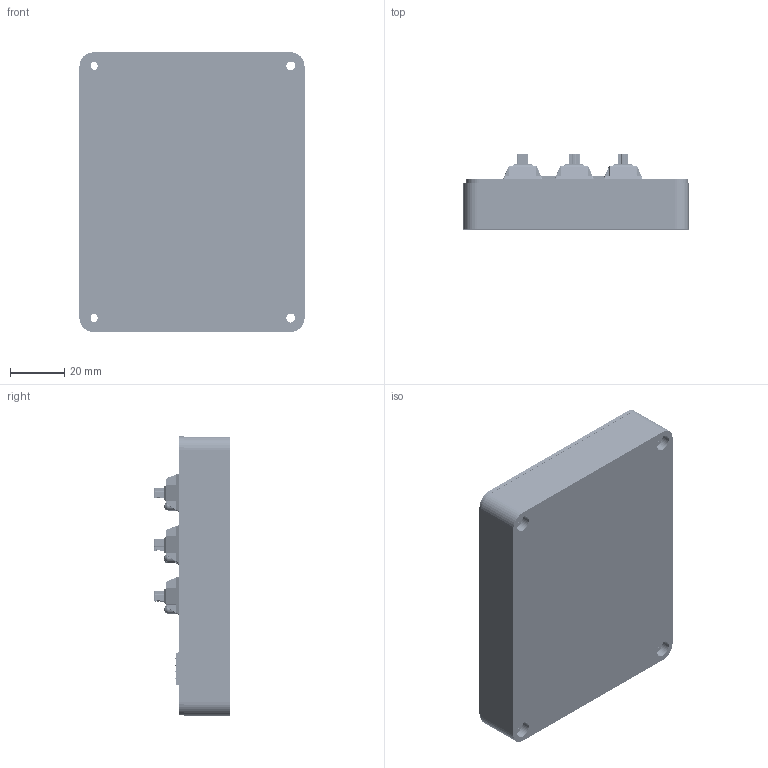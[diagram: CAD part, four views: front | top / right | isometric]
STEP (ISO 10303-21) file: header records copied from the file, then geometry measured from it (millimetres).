
FILE_DESCRIPTION(/* description */ (''),/* implementation_level */ '2;1');
FILE_NAME(/* name */ 'Gethin - full hackpad assembled_.step',/* time_stamp */ '2025-12-07T14:21:53Z',/* author */ (''),/* organization */ (''),/* preprocessor_version */ 'ST-DEVELOPER v20.1',/* originating_system */ 'Autodesk Translation Framework v14.21.0.0',/* authorisation */ '');
FILE_SCHEMA (('AUTOMOTIVE_DESIGN { 1 0 10303 214 3 1 1 }'));
Products named in the file (23): full hackpad assembled; Gethin hackpad cover; MX °´¼ü_¨¹_¡§1; MX Öá °´¼ü¡ä_¨¹
___¡§1; MX Öá ÖáÌå¨¢¨¬
_¡§¡é¡§__; MXÖá ÎÞÃ±LEDLEDLED; MXÖá ÖáÌå µ×²¿ ¦Ì¡
Á2__Ä¬ÈÏ_¨¢2____¨¨_; Õë½Å___Ä¬ÈÏ__¨¨
_; key cap; DisplayOled0.91; Seeed Studio XIAO RP2040; main; type-c v2; smd_button v3; SK6805-2.4x2.7 v1; Shell; DOUT; DIN; VSS; VDD; smd_button v3(Mirror); hackpad base; PCB
Assembly tree (22 placements, depth 5):
  full hackpad assembled
    Gethin hackpad cover
    MX °´¼ü_¨¹_¡§1
      MX Öá °´¼ü¡ä_¨¹
___¡§1
      MX Öá ÖáÌå¨¢¨¬
_¡§¡é¡§__
      MXÖá ÎÞÃ±LEDLEDLED
      MXÖá ÖáÌå µ×²¿ ¦Ì¡
Á2__Ä¬ÈÏ_¨¢2____¨¨_
      Õë½Å___Ä¬ÈÏ__¨¨
_
    key cap
    DisplayOled0.91
    Seeed Studio XIAO RP2040
      main
        type-c v2
        smd_button v3
        SK6805-2.4x2.7 v1
          Shell
          DOUT
          DIN
          VSS
          VDD
        smd_button v3(Mirror)
    hackpad base
    PCB
Bounding box: 83 x 27.77 x 103.12 mm (x, y, z)
Volume: 105007.8 mm3; surface area: 79664 mm2
Topology: 190 solids, 190 shells, 16241 faces, 39577 edges, 22879 vertices
Faces by surface type: cylinder 6330, plane 5584, torus 1722, bspline 1532, sphere 1018, cone 55
Full cylindrical faces by diameter (mm): 0.4 x1, 0.5 x2, 0.8 x32, 1.5 x2, 1.6 x36, 2 x10, 2.6 x9, 3 x9, 3.4 x8, 3.8 x9, 4.8 x9, 6 x8
Entity records: 505967 total; most frequent: CARTESIAN_POINT 132010, DIRECTION 79623, ORIENTED_EDGE 77176, EDGE_CURVE 38588, AXIS2_PLACEMENT_3D 29052, VERTEX_POINT 22879, LINE 21519, VECTOR 21519
